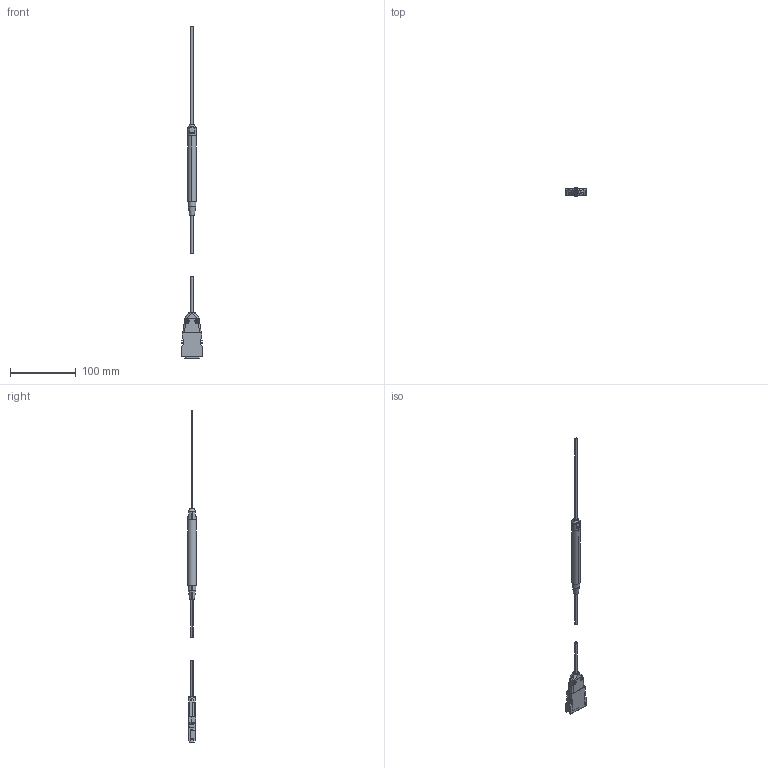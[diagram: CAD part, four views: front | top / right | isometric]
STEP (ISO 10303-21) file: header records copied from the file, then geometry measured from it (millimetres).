
FILE_DESCRIPTION (( 'STEP AP203' ), '1' );
FILE_NAME ('FP-2X-250-TS15.STEP', '2018-05-10T20:52:32', ( '' ), ( '' ), 'SwSTEP 2.0', 'SolidWorks 2017', '' );
FILE_SCHEMA (( 'CONFIG_CONTROL_DESIGN' ));
Length unit declared in the file: millimetre
Products named in the file (1): FP-2X-250-TS15
Bounding box: 33.27 x 13 x 504.53 mm (x, y, z)
Volume: 36178.2 mm3; surface area: 17470.8 mm2
Topology: 2 solids, 2 shells, 797 faces, 2169 edges, 1383 vertices
Faces by surface type: plane 508, cylinder 141, cone 64, bspline 54, torus 22, sphere 8
Entity records: 26961 total; most frequent: CARTESIAN_POINT 7269, ORIENTED_EDGE 4330, DIRECTION 3811, EDGE_CURVE 2165, LINE 1497, VECTOR 1497, VERTEX_POINT 1383, AXIS2_PLACEMENT_3D 1157
